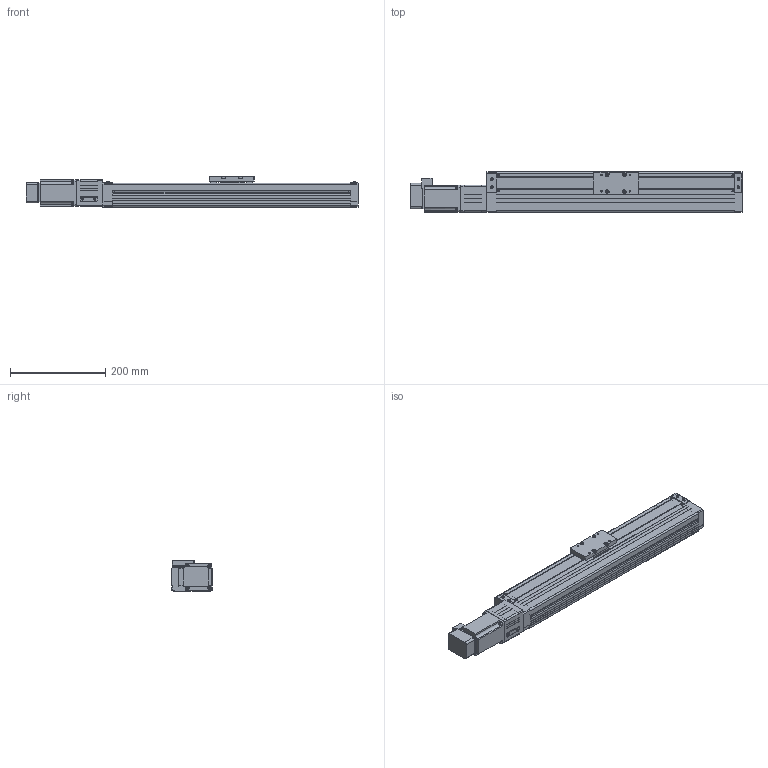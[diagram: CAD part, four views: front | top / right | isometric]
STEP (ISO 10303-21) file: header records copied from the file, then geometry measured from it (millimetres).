
FILE_DESCRIPTION((''),'2;1');
FILE_NAME('D:\製品 (図面)\カタログ用3D\SU部品\SU85×65\ダウンロード用\SU85×65-CM30\SU85×65-400-CM30.stp','2011-07-02T13:34:33',('Tsuchiya'),(''),'Autodesk Inventor 10','Autodesk Inventor 10','');
FILE_SCHEMA(('AUTOMOTIVE_DESIGN { 1 0 10303 214 1 1 1 1 }'));
Length unit declared in the file: millimetre
Products named in the file (4): SU85×65-400-CM30; SU85×65-400-CM301; SU85×65-400-CM302; SU85×65-400-CM303
Assembly tree (3 placements, depth 2):
  SU85×65-400-CM30
    SU85×65-400-CM301
    SU85×65-400-CM302
    SU85×65-400-CM303
Bounding box: 696.5 x 85 x 65 mm (x, y, z)
Volume: 1399349.8 mm3; surface area: 408852.3 mm2
Topology: 9 solids, 9 shells, 970 faces, 2558 edges, 1654 vertices
Faces by surface type: plane 798, cylinder 132, cone 24, torus 12, bspline 4
Full cylindrical faces by diameter (mm): 3.242 x8, 4 x4, 4.134 x12, 4.5 x4, 5.5 x4, 6 x1, 6.35 x1, 7 x8, 8 x1, 11.5 x1, 12 x1, 13 x1, 38.1 x2, 43 x1
Entity records: 29583 total; most frequent: CARTESIAN_POINT 5898, ORIENTED_EDGE 4870, DIRECTION 4664, EDGE_CURVE 2435, VECTOR 1924, LINE 1924, VERTEX_POINT 1620, AXIS2_PLACEMENT_3D 1370
